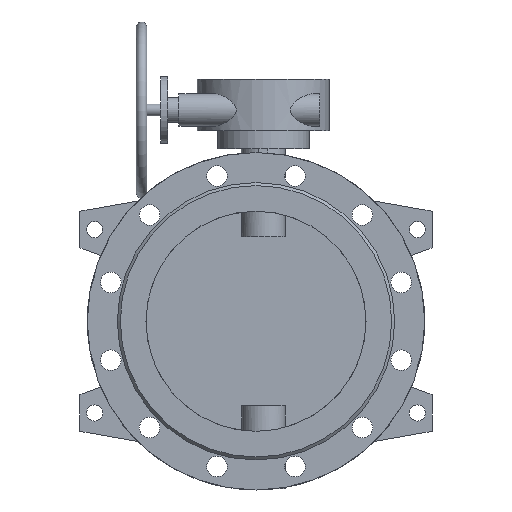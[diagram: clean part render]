
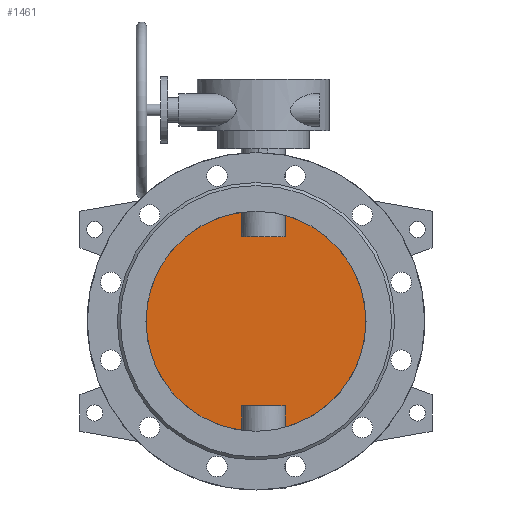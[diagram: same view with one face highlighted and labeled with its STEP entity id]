
A CAD part, front view. The second image highlights one B-rep face of the part: STEP entity #1461.
In plain terms, the highlighted planar face has unit normal (0, -1, 0).
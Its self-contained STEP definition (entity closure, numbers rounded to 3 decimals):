
#1461=ADVANCED_FACE('',(#2981),#2983,.F.);
#2981=FACE_BOUND('',#2982,.T.);
#2982=EDGE_LOOP('',(#3784,#3785,#3786,#3787,#3788,#3789,#3790,#3791));
#2983=PLANE('',#2984);
#2984=AXIS2_PLACEMENT_3D('',#2985,#2986,#2987);
#2985=CARTESIAN_POINT('',(0.,-5.,0.));
#2986=DIRECTION('',(0.,1.,0.));
#2987=DIRECTION('',(1.,0.,0.));
#3784=ORIENTED_EDGE('',*,*,#4170,.T.);
#3785=ORIENTED_EDGE('',*,*,#4176,.T.);
#3786=ORIENTED_EDGE('',*,*,#4177,.T.);
#3787=ORIENTED_EDGE('',*,*,#4178,.T.);
#3788=ORIENTED_EDGE('',*,*,#4172,.T.);
#3789=ORIENTED_EDGE('',*,*,#4179,.T.);
#3790=ORIENTED_EDGE('',*,*,#4180,.T.);
#3791=ORIENTED_EDGE('',*,*,#4181,.T.);
#4170=EDGE_CURVE('',#4802,#4803,#4804,.F.);
#4172=EDGE_CURVE('',#4807,#4805,#4808,.F.);
#4176=EDGE_CURVE('',#4803,#4814,#4815,.T.);
#4177=EDGE_CURVE('',#4814,#4816,#4817,.F.);
#4178=EDGE_CURVE('',#4816,#4807,#4818,.F.);
#4179=EDGE_CURVE('',#4805,#4819,#4820,.F.);
#4180=EDGE_CURVE('',#4819,#4821,#4822,.F.);
#4181=EDGE_CURVE('',#4821,#4802,#4823,.T.);
#4802=VERTEX_POINT('',#7329);
#4803=VERTEX_POINT('',#7330);
#4804=CIRCLE('',#7331,150.);
#4805=VERTEX_POINT('',#7335);
#4807=VERTEX_POINT('',#7441);
#4808=CIRCLE('',#7442,150.);
#4814=VERTEX_POINT('',#7573);
#4815=LINE('',#7574,#7575);
#4816=VERTEX_POINT('',#7577);
#4817=LINE('',#7578,#7579);
#4818=LINE('',#7581,#7582);
#4819=VERTEX_POINT('',#7584);
#4820=LINE('',#7585,#7586);
#4821=VERTEX_POINT('',#7588);
#4822=LINE('',#7589,#7590);
#4823=LINE('',#7592,#7593);
#7329=CARTESIAN_POINT('',(39.58,-5.,-144.684));
#7330=CARTESIAN_POINT('',(39.58,-5.,144.684));
#7331=AXIS2_PLACEMENT_3D('',#7332,#7333,#7334);
#7332=CARTESIAN_POINT('',(0.,-5.,0.));
#7333=DIRECTION('',(0.,1.,0.));
#7334=DIRECTION('',(0.264,0.,0.965));
#7335=CARTESIAN_POINT('',(-19.58,-5.,-148.717));
#7441=CARTESIAN_POINT('',(-19.58,-5.,148.717));
#7442=AXIS2_PLACEMENT_3D('',#7443,#7444,#7445);
#7443=CARTESIAN_POINT('',(0.,-5.,0.));
#7444=DIRECTION('',(0.,1.,0.));
#7445=DIRECTION('',(-0.131,0.,-0.991));
#7573=CARTESIAN_POINT('',(39.58,-5.,115.));
#7574=CARTESIAN_POINT('',(39.58,-5.,144.684));
#7575=VECTOR('',#7576,1.);
#7576=DIRECTION('',(0.,0.,-1.));
#7577=CARTESIAN_POINT('',(-19.58,-5.,115.));
#7578=CARTESIAN_POINT('',(-19.58,-5.,115.));
#7579=VECTOR('',#7580,1.);
#7580=DIRECTION('',(1.,0.,0.));
#7581=CARTESIAN_POINT('',(-19.58,-5.,148.717));
#7582=VECTOR('',#7583,1.);
#7583=DIRECTION('',(0.,0.,-1.));
#7584=CARTESIAN_POINT('',(-19.58,-5.,-115.));
#7585=CARTESIAN_POINT('',(-19.58,-5.,-115.));
#7586=VECTOR('',#7587,1.);
#7587=DIRECTION('',(0.,0.,-1.));
#7588=CARTESIAN_POINT('',(39.58,-5.,-115.));
#7589=CARTESIAN_POINT('',(39.58,-5.,-115.));
#7590=VECTOR('',#7591,1.);
#7591=DIRECTION('',(-1.,0.,0.));
#7592=CARTESIAN_POINT('',(39.58,-5.,-115.));
#7593=VECTOR('',#7594,1.);
#7594=DIRECTION('',(0.,0.,-1.));
